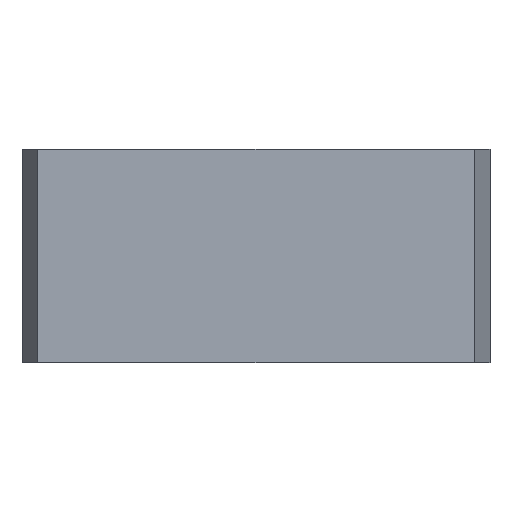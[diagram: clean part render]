
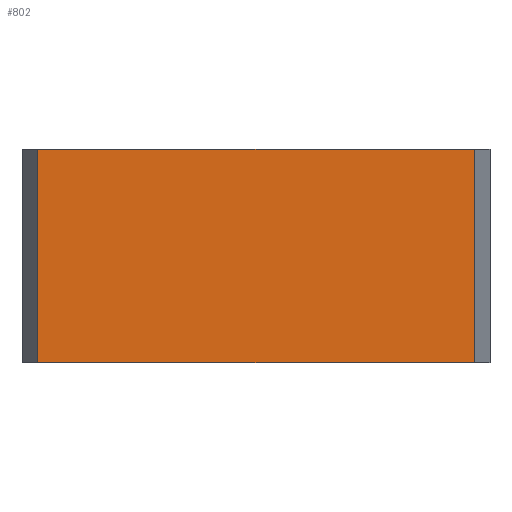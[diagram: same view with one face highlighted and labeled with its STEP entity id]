
A CAD part, front view. The second image highlights one B-rep face of the part: STEP entity #802.
In plain terms, the highlighted planar face has unit normal (0, -1, 0).
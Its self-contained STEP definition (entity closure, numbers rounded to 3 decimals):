
#72 = PLANE('',#73);
#73 = AXIS2_PLACEMENT_3D('',#74,#75,#76);
#74 = CARTESIAN_POINT('',(10.,16.868,-6.73));
#75 = DIRECTION('',(-0.,-0.,-1.));
#76 = DIRECTION('',(-1.,0.,0.));
#100 = PLANE('',#101);
#101 = AXIS2_PLACEMENT_3D('',#102,#103,#104);
#102 = CARTESIAN_POINT('',(30.,-11.,-25.));
#103 = DIRECTION('',(0.966,-0.259,0.));
#104 = DIRECTION('',(-0.259,-0.966,0.));
#126 = PLANE('',#127);
#127 = AXIS2_PLACEMENT_3D('',#128,#129,#130);
#128 = CARTESIAN_POINT('',(10.,16.868,-25.));
#129 = DIRECTION('',(-0.,-0.,-1.));
#130 = DIRECTION('',(-1.,0.,0.));
#219 = VERTEX_POINT('',#220);
#220 = CARTESIAN_POINT('',(28.66,-16.,-6.73));
#241 = EDGE_CURVE('',#242,#219,#244,.T.);
#242 = VERTEX_POINT('',#243);
#243 = CARTESIAN_POINT('',(28.66,-16.,-25.));
#244 = SURFACE_CURVE('',#245,(#249,#256),.PCURVE_S1.);
#245 = LINE('',#246,#247);
#246 = CARTESIAN_POINT('',(28.66,-16.,-25.));
#247 = VECTOR('',#248,1.);
#248 = DIRECTION('',(0.,0.,1.));
#249 = PCURVE('',#100,#250);
#250 = DEFINITIONAL_REPRESENTATION('',(#251),#255);
#251 = LINE('',#252,#253);
#252 = CARTESIAN_POINT('',(5.176,0.));
#253 = VECTOR('',#254,1.);
#254 = DIRECTION('',(0.,-1.));
#255 = ( GEOMETRIC_REPRESENTATION_CONTEXT(2) 
PARAMETRIC_REPRESENTATION_CONTEXT() REPRESENTATION_CONTEXT('2D SPACE',''
  ) );
#256 = PCURVE('',#257,#262);
#257 = PLANE('',#258);
#258 = AXIS2_PLACEMENT_3D('',#259,#260,#261);
#259 = CARTESIAN_POINT('',(28.66,-16.,-25.));
#260 = DIRECTION('',(0.,-1.,0.));
#261 = DIRECTION('',(-1.,0.,0.));
#262 = DEFINITIONAL_REPRESENTATION('',(#263),#267);
#263 = LINE('',#264,#265);
#264 = CARTESIAN_POINT('',(0.,-0.));
#265 = VECTOR('',#266,1.);
#266 = DIRECTION('',(0.,-1.));
#267 = ( GEOMETRIC_REPRESENTATION_CONTEXT(2) 
PARAMETRIC_REPRESENTATION_CONTEXT() REPRESENTATION_CONTEXT('2D SPACE',''
  ) );
#295 = EDGE_CURVE('',#242,#296,#298,.T.);
#296 = VERTEX_POINT('',#297);
#297 = CARTESIAN_POINT('',(-8.66,-16.,-25.));
#298 = SURFACE_CURVE('',#299,(#303,#310),.PCURVE_S1.);
#299 = LINE('',#300,#301);
#300 = CARTESIAN_POINT('',(28.66,-16.,-25.));
#301 = VECTOR('',#302,1.);
#302 = DIRECTION('',(-1.,0.,0.));
#303 = PCURVE('',#126,#304);
#304 = DEFINITIONAL_REPRESENTATION('',(#305),#309);
#305 = LINE('',#306,#307);
#306 = CARTESIAN_POINT('',(-18.66,-32.868));
#307 = VECTOR('',#308,1.);
#308 = DIRECTION('',(1.,0.));
#309 = ( GEOMETRIC_REPRESENTATION_CONTEXT(2) 
PARAMETRIC_REPRESENTATION_CONTEXT() REPRESENTATION_CONTEXT('2D SPACE',''
  ) );
#310 = PCURVE('',#257,#311);
#311 = DEFINITIONAL_REPRESENTATION('',(#312),#316);
#312 = LINE('',#313,#314);
#313 = CARTESIAN_POINT('',(0.,-0.));
#314 = VECTOR('',#315,1.);
#315 = DIRECTION('',(1.,0.));
#316 = ( GEOMETRIC_REPRESENTATION_CONTEXT(2) 
PARAMETRIC_REPRESENTATION_CONTEXT() REPRESENTATION_CONTEXT('2D SPACE',''
  ) );
#334 = PLANE('',#335);
#335 = AXIS2_PLACEMENT_3D('',#336,#337,#338);
#336 = CARTESIAN_POINT('',(-8.66,-16.,-25.));
#337 = DIRECTION('',(-0.966,-0.259,0.));
#338 = DIRECTION('',(-0.259,0.966,0.));
#548 = EDGE_CURVE('',#219,#549,#551,.T.);
#549 = VERTEX_POINT('',#550);
#550 = CARTESIAN_POINT('',(-8.66,-16.,-6.73));
#551 = SURFACE_CURVE('',#552,(#556,#563),.PCURVE_S1.);
#552 = LINE('',#553,#554);
#553 = CARTESIAN_POINT('',(28.66,-16.,-6.73));
#554 = VECTOR('',#555,1.);
#555 = DIRECTION('',(-1.,0.,0.));
#556 = PCURVE('',#72,#557);
#557 = DEFINITIONAL_REPRESENTATION('',(#558),#562);
#558 = LINE('',#559,#560);
#559 = CARTESIAN_POINT('',(-18.66,-32.868));
#560 = VECTOR('',#561,1.);
#561 = DIRECTION('',(1.,0.));
#562 = ( GEOMETRIC_REPRESENTATION_CONTEXT(2) 
PARAMETRIC_REPRESENTATION_CONTEXT() REPRESENTATION_CONTEXT('2D SPACE',''
  ) );
#563 = PCURVE('',#257,#564);
#564 = DEFINITIONAL_REPRESENTATION('',(#565),#569);
#565 = LINE('',#566,#567);
#566 = CARTESIAN_POINT('',(0.,-18.27));
#567 = VECTOR('',#568,1.);
#568 = DIRECTION('',(1.,0.));
#569 = ( GEOMETRIC_REPRESENTATION_CONTEXT(2) 
PARAMETRIC_REPRESENTATION_CONTEXT() REPRESENTATION_CONTEXT('2D SPACE',''
  ) );
#802 = ADVANCED_FACE('',(#803),#257,.T.);
#803 = FACE_BOUND('',#804,.T.);
#804 = EDGE_LOOP('',(#805,#806,#807,#828));
#805 = ORIENTED_EDGE('',*,*,#241,.T.);
#806 = ORIENTED_EDGE('',*,*,#548,.T.);
#807 = ORIENTED_EDGE('',*,*,#808,.F.);
#808 = EDGE_CURVE('',#296,#549,#809,.T.);
#809 = SURFACE_CURVE('',#810,(#814,#821),.PCURVE_S1.);
#810 = LINE('',#811,#812);
#811 = CARTESIAN_POINT('',(-8.66,-16.,-25.));
#812 = VECTOR('',#813,1.);
#813 = DIRECTION('',(0.,0.,1.));
#814 = PCURVE('',#257,#815);
#815 = DEFINITIONAL_REPRESENTATION('',(#816),#820);
#816 = LINE('',#817,#818);
#817 = CARTESIAN_POINT('',(37.321,0.));
#818 = VECTOR('',#819,1.);
#819 = DIRECTION('',(0.,-1.));
#820 = ( GEOMETRIC_REPRESENTATION_CONTEXT(2) 
PARAMETRIC_REPRESENTATION_CONTEXT() REPRESENTATION_CONTEXT('2D SPACE',''
  ) );
#821 = PCURVE('',#334,#822);
#822 = DEFINITIONAL_REPRESENTATION('',(#823),#827);
#823 = LINE('',#824,#825);
#824 = CARTESIAN_POINT('',(0.,0.));
#825 = VECTOR('',#826,1.);
#826 = DIRECTION('',(0.,-1.));
#827 = ( GEOMETRIC_REPRESENTATION_CONTEXT(2) 
PARAMETRIC_REPRESENTATION_CONTEXT() REPRESENTATION_CONTEXT('2D SPACE',''
  ) );
#828 = ORIENTED_EDGE('',*,*,#295,.F.);
